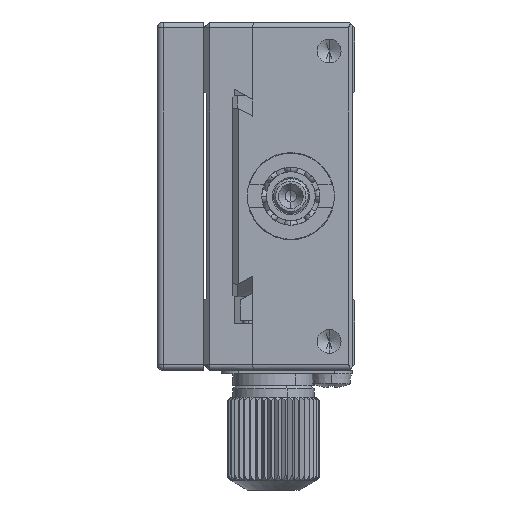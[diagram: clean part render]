
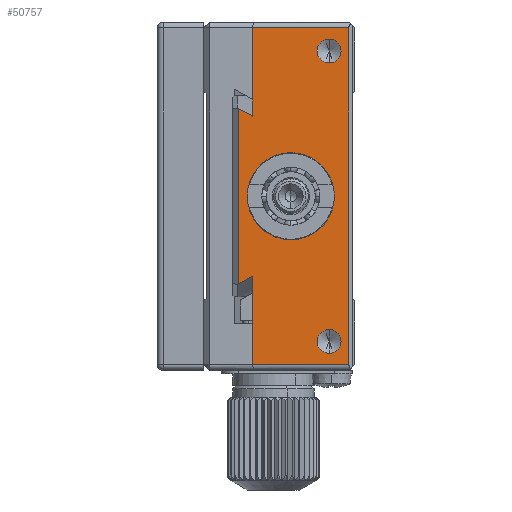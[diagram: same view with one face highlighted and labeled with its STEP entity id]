
A CAD part, left-side view. The second image highlights one B-rep face of the part: STEP entity #50757.
In plain terms, the highlighted planar face has unit normal (-1, 0, 0).
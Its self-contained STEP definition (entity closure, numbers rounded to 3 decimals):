
#1164 = LINE ( 'NONE', #63886, #17146 ) ;
#1190 = LINE ( 'NONE', #6401, #64007 ) ;
#1192 = LINE ( 'NONE', #6411, #64008 ) ;
#1194 = LINE ( 'NONE', #6413, #63990 ) ;
#1196 = LINE ( 'NONE', #6415, #63999 ) ;
#6398 = CARTESIAN_POINT ( 'NONE',  ( -22., -54.8, -12.5 ) ) ;
#6399 = DIRECTION ( 'NONE',  ( -1., 0., 0. ) ) ;
#6400 = DIRECTION ( 'NONE',  ( 0., 0., 1. ) ) ;
#6401 = CARTESIAN_POINT ( 'NONE',  ( -22., -47., 15. ) ) ;
#6402 = DIRECTION ( 'NONE',  ( 0., 0., -1. ) ) ;
#6403 = CARTESIAN_POINT ( 'NONE',  ( -22., -48.218, 6.902 ) ) ;
#6404 = CARTESIAN_POINT ( 'NONE',  ( -22., -47.812, 7.115 ) ) ;
#6405 = CARTESIAN_POINT ( 'NONE',  ( -22., -47.406, 7.328 ) ) ;
#6406 = CARTESIAN_POINT ( 'NONE',  ( -22., -47., 7.54 ) ) ;
#6407 = CARTESIAN_POINT ( 'NONE',  ( -22., -47., -7.54 ) ) ;
#6408 = CARTESIAN_POINT ( 'NONE',  ( -22., -47.406, -7.328 ) ) ;
#6409 = CARTESIAN_POINT ( 'NONE',  ( -22., -47.812, -7.115 ) ) ;
#6410 = CARTESIAN_POINT ( 'NONE',  ( -22., -48.218, -6.902 ) ) ;
#6411 = CARTESIAN_POINT ( 'NONE',  ( -22., -48.218, 0. ) ) ;
#6412 = DIRECTION ( 'NONE',  ( 0., 0., -1. ) ) ;
#6413 = CARTESIAN_POINT ( 'NONE',  ( -22., -46.5, -14.5 ) ) ;
#6414 = DIRECTION ( 'NONE',  ( 0., -1., 0. ) ) ;
#6415 = CARTESIAN_POINT ( 'NONE',  ( -22., -48.218, 14.5 ) ) ;
#6416 = DIRECTION ( 'NONE',  ( 0., 1., 0. ) ) ;
#6417 = CARTESIAN_POINT ( 'NONE',  ( -22., -54.8, 12.5 ) ) ;
#6418 = DIRECTION ( 'NONE',  ( -1., 0., 0. ) ) ;
#6419 = DIRECTION ( 'NONE',  ( 0., 0., 1. ) ) ;
#6420 = CARTESIAN_POINT ( 'NONE',  ( -22., -51.5, 0. ) ) ;
#6421 = DIRECTION ( 'NONE',  ( -1., 0., 0. ) ) ;
#6422 = DIRECTION ( 'NONE',  ( 0., 0., 1. ) ) ;
#14573 = CARTESIAN_POINT ( 'NONE',  ( -22., -48.218, 6.902 ) ) ;
#14577 = CARTESIAN_POINT ( 'NONE',  ( -22., -48.218, 14.5 ) ) ;
#14707 = CARTESIAN_POINT ( 'NONE',  ( -22., -56.5, -14.5 ) ) ;
#14708 = CARTESIAN_POINT ( 'NONE',  ( -22., -56.5, 14.5 ) ) ;
#14721 = CARTESIAN_POINT ( 'NONE',  ( -22., -47., 7.54 ) ) ;
#14722 = CARTESIAN_POINT ( 'NONE',  ( -22., -47., -7.54 ) ) ;
#14723 = CARTESIAN_POINT ( 'NONE',  ( -22., -48.218, -6.902 ) ) ;
#14724 = CARTESIAN_POINT ( 'NONE',  ( -22., -48.218, -14.5 ) ) ;
#16566 = LINE ( 'NONE', #18088, #18673 ) ;
#17146 = VECTOR ( 'NONE', #63887, 1000. ) ;
#17639 = CARTESIAN_POINT ( 'NONE',  ( -22., -51.5, 0. ) ) ;
#17640 = DIRECTION ( 'NONE',  ( -1., 0., 0. ) ) ;
#17641 = DIRECTION ( 'NONE',  ( 0., 0., 1. ) ) ;
#17653 = CARTESIAN_POINT ( 'NONE',  ( -22., -54.8, -12.5 ) ) ;
#17654 = DIRECTION ( 'NONE',  ( -1., 0., 0. ) ) ;
#17655 = DIRECTION ( 'NONE',  ( 0., 0., 1. ) ) ;
#17667 = CARTESIAN_POINT ( 'NONE',  ( -22., -54.8, 12.5 ) ) ;
#17668 = DIRECTION ( 'NONE',  ( -1., 0., 0. ) ) ;
#17669 = DIRECTION ( 'NONE',  ( 0., 0., 1. ) ) ;
#18088 = CARTESIAN_POINT ( 'NONE',  ( -22., -48.218, 0. ) ) ;
#18089 = DIRECTION ( 'NONE',  ( 0., 0., -1. ) ) ;
#18673 = VECTOR ( 'NONE', #18089, 1000. ) ;
#23260 = VERTEX_POINT ( 'NONE', #63563 ) ;
#23319 = VERTEX_POINT ( 'NONE', #63622 ) ;
#23320 = VERTEX_POINT ( 'NONE', #63623 ) ;
#23324 = VERTEX_POINT ( 'NONE', #63627 ) ;
#23325 = VERTEX_POINT ( 'NONE', #63628 ) ;
#23332 = VERTEX_POINT ( 'NONE', #63635 ) ;
#24167 = ORIENTED_EDGE ( 'NONE', *, *, #24731, .F. ) ;
#24169 = ORIENTED_EDGE ( 'NONE', *, *, #24733, .T. ) ;
#24170 = ORIENTED_EDGE ( 'NONE', *, *, #61958, .F. ) ;
#24171 = ORIENTED_EDGE ( 'NONE', *, *, #24734, .T. ) ;
#24172 = ORIENTED_EDGE ( 'NONE', *, *, #24732, .T. ) ;
#24173 = ORIENTED_EDGE ( 'NONE', *, *, #24735, .T. ) ;
#24174 = ORIENTED_EDGE ( 'NONE', *, *, #24736, .T. ) ;
#24175 = ORIENTED_EDGE ( 'NONE', *, *, #24712, .T. ) ;
#24176 = ORIENTED_EDGE ( 'NONE', *, *, #24737, .T. ) ;
#24177 = ORIENTED_EDGE ( 'NONE', *, *, #24739, .F. ) ;
#24178 = ORIENTED_EDGE ( 'NONE', *, *, #63960, .T. ) ;
#24179 = ORIENTED_EDGE ( 'NONE', *, *, #24738, .F. ) ;
#24181 = ORIENTED_EDGE ( 'NONE', *, *, #61973, .F. ) ;
#24183 = ORIENTED_EDGE ( 'NONE', *, *, #61943, .F. ) ;
#24712 = EDGE_CURVE ( 'NONE', #31206, #31207, #1164, .T. ) ;
#24731 = EDGE_CURVE ( 'NONE', #23325, #23324, #63996, .T. ) ;
#24732 = EDGE_CURVE ( 'NONE', #31220, #31221, #1190, .T. ) ;
#24733 = EDGE_CURVE ( 'NONE', #31098, #31220, #64073, .T. ) ;
#24734 = EDGE_CURVE ( 'NONE', #31221, #31222, #64095, .T. ) ;
#24735 = EDGE_CURVE ( 'NONE', #31222, #31223, #1192, .T. ) ;
#24736 = EDGE_CURVE ( 'NONE', #31223, #31206, #1194, .T. ) ;
#24737 = EDGE_CURVE ( 'NONE', #31207, #31100, #1196, .T. ) ;
#24738 = EDGE_CURVE ( 'NONE', #23260, #23332, #63993, .T. ) ;
#24739 = EDGE_CURVE ( 'NONE', #23320, #23319, #63985, .T. ) ;
#29407 = AXIS2_PLACEMENT_3D ( 'NONE', #33266, #33267, #33268 ) ;
#31098 = VERTEX_POINT ( 'NONE', #14573 ) ;
#31100 = VERTEX_POINT ( 'NONE', #14577 ) ;
#31206 = VERTEX_POINT ( 'NONE', #14707 ) ;
#31207 = VERTEX_POINT ( 'NONE', #14708 ) ;
#31220 = VERTEX_POINT ( 'NONE', #14721 ) ;
#31221 = VERTEX_POINT ( 'NONE', #14722 ) ;
#31222 = VERTEX_POINT ( 'NONE', #14723 ) ;
#31223 = VERTEX_POINT ( 'NONE', #14724 ) ;
#33265 = PLANE ( 'NONE',  #29407 ) ;
#33266 = CARTESIAN_POINT ( 'NONE',  ( -22., -46.5, 15. ) ) ;
#33267 = DIRECTION ( 'NONE',  ( 1., 0., 0. ) ) ;
#33268 = DIRECTION ( 'NONE',  ( 0., 1., 0. ) ) ;
#34542 = FACE_BOUND ( 'NONE', #49965, .T. ) ;
#34543 = FACE_OUTER_BOUND ( 'NONE', #49869, .T. ) ;
#34544 = FACE_BOUND ( 'NONE', #49862, .T. ) ;
#34545 = FACE_BOUND ( 'NONE', #49864, .T. ) ;
#49862 = EDGE_LOOP ( 'NONE', ( #24179, #24181 ) ) ;
#49864 = EDGE_LOOP ( 'NONE', ( #24177, #24183 ) ) ;
#49869 = EDGE_LOOP ( 'NONE', ( #24169, #24172, #24171, #24173, #24174, #24175, #24176, #24178 ) ) ;
#49965 = EDGE_LOOP ( 'NONE', ( #24167, #24170 ) ) ;
#50757 = ADVANCED_FACE ( 'NONE', ( #34542, #34543, #34544, #34545 ), #33265, .F. ) ;
#53105 = CIRCLE ( 'NONE', #53107, 3.75 ) ;
#53107 = AXIS2_PLACEMENT_3D ( 'NONE', #17639, #17640, #17641 ) ;
#53113 = CIRCLE ( 'NONE', #53115, 1.025 ) ;
#53115 = AXIS2_PLACEMENT_3D ( 'NONE', #17653, #17654, #17655 ) ;
#53122 = CIRCLE ( 'NONE', #53124, 1.025 ) ;
#53124 = AXIS2_PLACEMENT_3D ( 'NONE', #17667, #17668, #17669 ) ;
#61943 = EDGE_CURVE ( 'NONE', #23319, #23320, #53105, .T. ) ;
#61958 = EDGE_CURVE ( 'NONE', #23324, #23325, #53113, .T. ) ;
#61973 = EDGE_CURVE ( 'NONE', #23332, #23260, #53122, .T. ) ;
#63563 = CARTESIAN_POINT ( 'NONE',  ( -22., -54.8, 13.525 ) ) ;
#63622 = CARTESIAN_POINT ( 'NONE',  ( -22., -51.5, -3.75 ) ) ;
#63623 = CARTESIAN_POINT ( 'NONE',  ( -22., -51.5, 3.75 ) ) ;
#63627 = CARTESIAN_POINT ( 'NONE',  ( -22., -54.8, -13.525 ) ) ;
#63628 = CARTESIAN_POINT ( 'NONE',  ( -22., -54.8, -11.475 ) ) ;
#63635 = CARTESIAN_POINT ( 'NONE',  ( -22., -54.8, 11.475 ) ) ;
#63886 = CARTESIAN_POINT ( 'NONE',  ( -22., -56.5, 15. ) ) ;
#63887 = DIRECTION ( 'NONE',  ( 0., 0., 1. ) ) ;
#63960 = EDGE_CURVE ( 'NONE', #31100, #31098, #16566, .T. ) ;
#63985 = CIRCLE ( 'NONE', #63988, 3.75 ) ;
#63988 = AXIS2_PLACEMENT_3D ( 'NONE', #6420, #6421, #6422 ) ;
#63990 = VECTOR ( 'NONE', #6414, 1000. ) ;
#63992 = AXIS2_PLACEMENT_3D ( 'NONE', #6417, #6418, #6419 ) ;
#63993 = CIRCLE ( 'NONE', #63992, 1.025 ) ;
#63994 = AXIS2_PLACEMENT_3D ( 'NONE', #6398, #6399, #6400 ) ;
#63996 = CIRCLE ( 'NONE', #63994, 1.025 ) ;
#63999 = VECTOR ( 'NONE', #6416, 1000. ) ;
#64007 = VECTOR ( 'NONE', #6402, 1000. ) ;
#64008 = VECTOR ( 'NONE', #6412, 1000. ) ;
#64073 = B_SPLINE_CURVE_WITH_KNOTS ( 'NONE', 3,
 ( #6403, #6404, #6405, #6406 ),
 .UNSPECIFIED., .F., .F.,
 ( 4, 4 ),
 ( 0.013, 0.014 ),
 .UNSPECIFIED. ) ;
#64095 = B_SPLINE_CURVE_WITH_KNOTS ( 'NONE', 3,
 ( #6407, #6408, #6409, #6410 ),
 .UNSPECIFIED., .F., .F.,
 ( 4, 4 ),
 ( 0.011, 0.013 ),
 .UNSPECIFIED. ) ;
